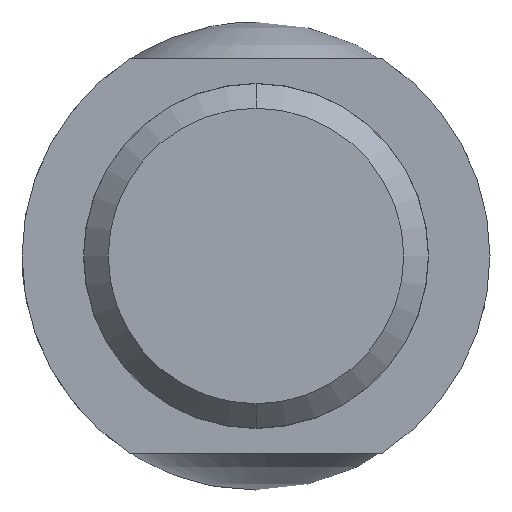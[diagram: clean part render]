
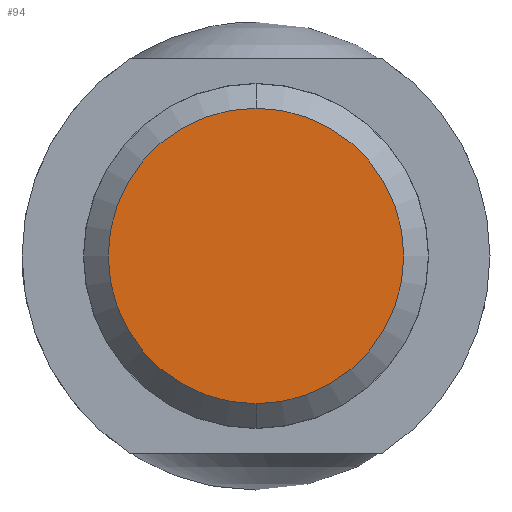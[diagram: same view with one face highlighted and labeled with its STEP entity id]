
A CAD part, front view. The second image highlights one B-rep face of the part: STEP entity #94.
In plain terms, the highlighted planar face has unit normal (0, -1, 0).
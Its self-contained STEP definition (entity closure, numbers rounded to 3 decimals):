
#94 = ADVANCED_FACE ( 'NONE', ( #470 ), #469, .F. ) ;
#95 = EDGE_LOOP ( 'NONE', ( #96, #236 ) ) ;
#96 = ORIENTED_EDGE ( 'NONE', *, *, #97, .T. ) ;
#97 = EDGE_CURVE ( 'NONE', #252, #116, #467, .T. ) ;
#115 = EDGE_CURVE ( 'NONE', #116, #252, #339, .T. ) ;
#116 = VERTEX_POINT ( 'NONE', #329 ) ;
#236 = ORIENTED_EDGE ( 'NONE', *, *, #115, .T. ) ;
#252 = VERTEX_POINT ( 'NONE', #515 ) ;
#329 = CARTESIAN_POINT ( 'NONE',  ( 0., -28., -6. ) ) ;
#330 = DIRECTION ( 'NONE',  ( 0., 0., 1. ) ) ;
#331 = DIRECTION ( 'NONE',  ( 0., -1., 0. ) ) ;
#332 = CARTESIAN_POINT ( 'NONE',  ( 0., -28., 0. ) ) ;
#333 = AXIS2_PLACEMENT_3D ( 'NONE', #332, #331, #330 ) ;
#339 = CIRCLE ( 'NONE', #333, 6. ) ;
#460 = DIRECTION ( 'NONE',  ( 0., 0., 1. ) ) ;
#461 = DIRECTION ( 'NONE',  ( 0., -1., 0. ) ) ;
#462 = CARTESIAN_POINT ( 'NONE',  ( 0., -28., 0. ) ) ;
#463 = AXIS2_PLACEMENT_3D ( 'NONE', #462, #461, #460 ) ;
#464 = DIRECTION ( 'NONE',  ( 0., 0., 1. ) ) ;
#465 = DIRECTION ( 'NONE',  ( 0., 1., 0. ) ) ;
#466 = CARTESIAN_POINT ( 'NONE',  ( 0., -28., 0. ) ) ;
#467 = CIRCLE ( 'NONE', #463, 6. ) ;
#468 = AXIS2_PLACEMENT_3D ( 'NONE', #466, #465, #464 ) ;
#469 = PLANE ( 'NONE',  #468 ) ;
#470 = FACE_OUTER_BOUND ( 'NONE', #95, .T. ) ;
#515 = CARTESIAN_POINT ( 'NONE',  ( 0., -28., 6. ) ) ;
